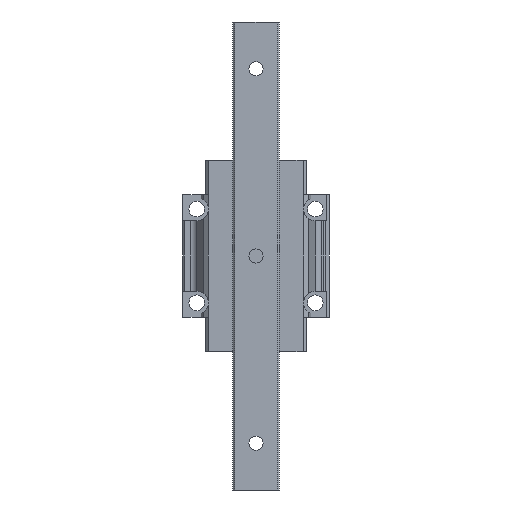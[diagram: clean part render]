
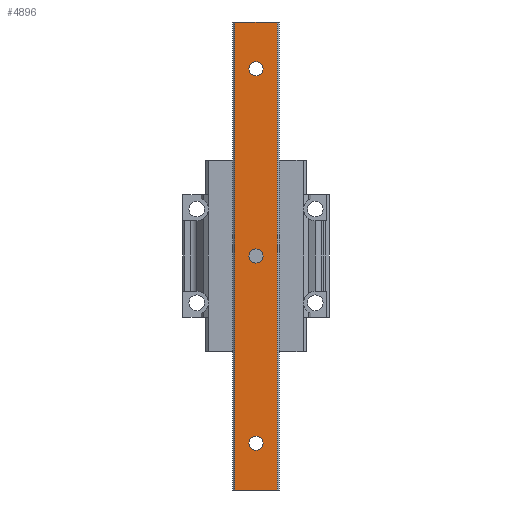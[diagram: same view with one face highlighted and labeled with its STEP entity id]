
A CAD part, front view. The second image highlights one B-rep face of the part: STEP entity #4896.
In plain terms, the highlighted planar face has unit normal (0, -1, 0).
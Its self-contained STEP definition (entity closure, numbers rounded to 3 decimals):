
#375 = AXIS2_PLACEMENT_3D ( 'NONE', #704, #4913, #1752 ) ;
#397 = ORIENTED_EDGE ( 'NONE', *, *, #2596, .T. ) ;
#413 = CARTESIAN_POINT ( 'NONE',  ( 0., -15., 60. ) ) ;
#499 = CARTESIAN_POINT ( 'NONE',  ( 6.8, -15., 75. ) ) ;
#586 = CARTESIAN_POINT ( 'NONE',  ( 6.8, -15., -75. ) ) ;
#631 = AXIS2_PLACEMENT_3D ( 'NONE', #413, #2278, #2923 ) ;
#658 = CIRCLE ( 'NONE', #4335, 2.25 ) ;
#704 = CARTESIAN_POINT ( 'NONE',  ( 0., -15., -60. ) ) ;
#740 = CARTESIAN_POINT ( 'NONE',  ( 2.25, -15., 0. ) ) ;
#938 = DIRECTION ( 'NONE',  ( 0., 1., 0. ) ) ;
#1064 = VERTEX_POINT ( 'NONE', #499 ) ;
#1120 = ORIENTED_EDGE ( 'NONE', *, *, #6923, .T. ) ;
#1282 = AXIS2_PLACEMENT_3D ( 'NONE', #1757, #5460, #6795 ) ;
#1408 = LINE ( 'NONE', #7331, #1429 ) ;
#1415 = ORIENTED_EDGE ( 'NONE', *, *, #4301, .T. ) ;
#1429 = VECTOR ( 'NONE', #6225, 1000. ) ;
#1465 = CARTESIAN_POINT ( 'NONE',  ( -6.8, -15., 75. ) ) ;
#1517 = CARTESIAN_POINT ( 'NONE',  ( 6.8, -15., -75. ) ) ;
#1577 = LINE ( 'NONE', #2787, #6930 ) ;
#1752 = DIRECTION ( 'NONE',  ( -1., 0., 0. ) ) ;
#1757 = CARTESIAN_POINT ( 'NONE',  ( -6.8, -15., -75. ) ) ;
#1781 = ORIENTED_EDGE ( 'NONE', *, *, #5291, .T. ) ;
#1813 = VECTOR ( 'NONE', #7262, 1000. ) ;
#1843 = VERTEX_POINT ( 'NONE', #6099 ) ;
#2087 = CARTESIAN_POINT ( 'NONE',  ( -2.25, -15., 0. ) ) ;
#2120 = LINE ( 'NONE', #1517, #2310 ) ;
#2278 = DIRECTION ( 'NONE',  ( 0., 1., 0. ) ) ;
#2310 = VECTOR ( 'NONE', #3941, 1000. ) ;
#2435 = EDGE_CURVE ( 'NONE', #6421, #5453, #7139, .T. ) ;
#2596 = EDGE_CURVE ( 'NONE', #6475, #1843, #5577, .T. ) ;
#2723 = AXIS2_PLACEMENT_3D ( 'NONE', #6124, #3862, #6164 ) ;
#2777 = VERTEX_POINT ( 'NONE', #2087 ) ;
#2786 = ORIENTED_EDGE ( 'NONE', *, *, #4679, .T. ) ;
#2787 = CARTESIAN_POINT ( 'NONE',  ( -6.8, -15., -75. ) ) ;
#2850 = DIRECTION ( 'NONE',  ( -1., 0., 0. ) ) ;
#2859 = VERTEX_POINT ( 'NONE', #5181 ) ;
#2923 = DIRECTION ( 'NONE',  ( -1., 0., 0. ) ) ;
#2937 = CIRCLE ( 'NONE', #7161, 2.25 ) ;
#2964 = ORIENTED_EDGE ( 'NONE', *, *, #5790, .T. ) ;
#2988 = DIRECTION ( 'NONE',  ( 0., 1., 0. ) ) ;
#3012 = EDGE_CURVE ( 'NONE', #5453, #6421, #2937, .T. ) ;
#3196 = CARTESIAN_POINT ( 'NONE',  ( 0., -15., -60. ) ) ;
#3569 = FACE_BOUND ( 'NONE', #5432, .T. ) ;
#3862 = DIRECTION ( 'NONE',  ( 0., 1., 0. ) ) ;
#3941 = DIRECTION ( 'NONE',  ( 0., 0., 1. ) ) ;
#3990 = CARTESIAN_POINT ( 'NONE',  ( 0., -15., 0. ) ) ;
#4019 = ORIENTED_EDGE ( 'NONE', *, *, #5827, .T. ) ;
#4072 = FACE_OUTER_BOUND ( 'NONE', #6920, .T. ) ;
#4160 = CARTESIAN_POINT ( 'NONE',  ( -2.25, -15., -60. ) ) ;
#4256 = EDGE_CURVE ( 'NONE', #5312, #2777, #6349, .T. ) ;
#4301 = EDGE_CURVE ( 'NONE', #1843, #6475, #6715, .T. ) ;
#4335 = AXIS2_PLACEMENT_3D ( 'NONE', #3990, #938, #2850 ) ;
#4498 = CARTESIAN_POINT ( 'NONE',  ( 2.25, -15., -60. ) ) ;
#4563 = DIRECTION ( 'NONE',  ( 0., 1., 0. ) ) ;
#4572 = CARTESIAN_POINT ( 'NONE',  ( 2.25, -15., 60. ) ) ;
#4679 = EDGE_CURVE ( 'NONE', #1064, #5857, #5512, .T. ) ;
#4896 = ADVANCED_FACE ( 'NONE', ( #7654, #3569, #7703, #4072 ), #7134, .T. ) ;
#4913 = DIRECTION ( 'NONE',  ( 0., 1., 0. ) ) ;
#5181 = CARTESIAN_POINT ( 'NONE',  ( -6.8, -15., -75. ) ) ;
#5291 = EDGE_CURVE ( 'NONE', #2859, #6976, #1408, .T. ) ;
#5310 = EDGE_LOOP ( 'NONE', ( #1415, #397 ) ) ;
#5312 = VERTEX_POINT ( 'NONE', #740 ) ;
#5389 = DIRECTION ( 'NONE',  ( -1., 0., 0. ) ) ;
#5432 = EDGE_LOOP ( 'NONE', ( #5503, #5569 ) ) ;
#5453 = VERTEX_POINT ( 'NONE', #4160 ) ;
#5460 = DIRECTION ( 'NONE',  ( 0., -1., 0. ) ) ;
#5503 = ORIENTED_EDGE ( 'NONE', *, *, #3012, .T. ) ;
#5512 = LINE ( 'NONE', #1465, #1813 ) ;
#5569 = ORIENTED_EDGE ( 'NONE', *, *, #2435, .T. ) ;
#5577 = CIRCLE ( 'NONE', #631, 2.25 ) ;
#5790 = EDGE_CURVE ( 'NONE', #2777, #5312, #658, .T. ) ;
#5827 = EDGE_CURVE ( 'NONE', #6976, #1064, #2120, .T. ) ;
#5850 = DIRECTION ( 'NONE',  ( -1., 0., 0. ) ) ;
#5857 = VERTEX_POINT ( 'NONE', #7154 ) ;
#6099 = CARTESIAN_POINT ( 'NONE',  ( -2.25, -15., 60. ) ) ;
#6124 = CARTESIAN_POINT ( 'NONE',  ( 0., -15., 0. ) ) ;
#6164 = DIRECTION ( 'NONE',  ( -1., 0., 0. ) ) ;
#6225 = DIRECTION ( 'NONE',  ( 1., 0., 0. ) ) ;
#6349 = CIRCLE ( 'NONE', #2723, 2.25 ) ;
#6421 = VERTEX_POINT ( 'NONE', #4498 ) ;
#6465 = CARTESIAN_POINT ( 'NONE',  ( 0., -15., 60. ) ) ;
#6475 = VERTEX_POINT ( 'NONE', #4572 ) ;
#6715 = CIRCLE ( 'NONE', #6952, 2.25 ) ;
#6795 = DIRECTION ( 'NONE',  ( 0., 0., -1. ) ) ;
#6874 = ORIENTED_EDGE ( 'NONE', *, *, #4256, .T. ) ;
#6920 = EDGE_LOOP ( 'NONE', ( #4019, #2786, #1120, #1781 ) ) ;
#6923 = EDGE_CURVE ( 'NONE', #5857, #2859, #1577, .T. ) ;
#6930 = VECTOR ( 'NONE', #6956, 1000. ) ;
#6952 = AXIS2_PLACEMENT_3D ( 'NONE', #6465, #4563, #5850 ) ;
#6956 = DIRECTION ( 'NONE',  ( 0., 0., -1. ) ) ;
#6976 = VERTEX_POINT ( 'NONE', #586 ) ;
#7134 = PLANE ( 'NONE',  #1282 ) ;
#7139 = CIRCLE ( 'NONE', #375, 2.25 ) ;
#7154 = CARTESIAN_POINT ( 'NONE',  ( -6.8, -15., 75. ) ) ;
#7161 = AXIS2_PLACEMENT_3D ( 'NONE', #3196, #2988, #5389 ) ;
#7260 = EDGE_LOOP ( 'NONE', ( #2964, #6874 ) ) ;
#7262 = DIRECTION ( 'NONE',  ( -1., 0., 0. ) ) ;
#7331 = CARTESIAN_POINT ( 'NONE',  ( -6.8, -15., -75. ) ) ;
#7654 = FACE_BOUND ( 'NONE', #7260, .T. ) ;
#7703 = FACE_BOUND ( 'NONE', #5310, .T. ) ;
